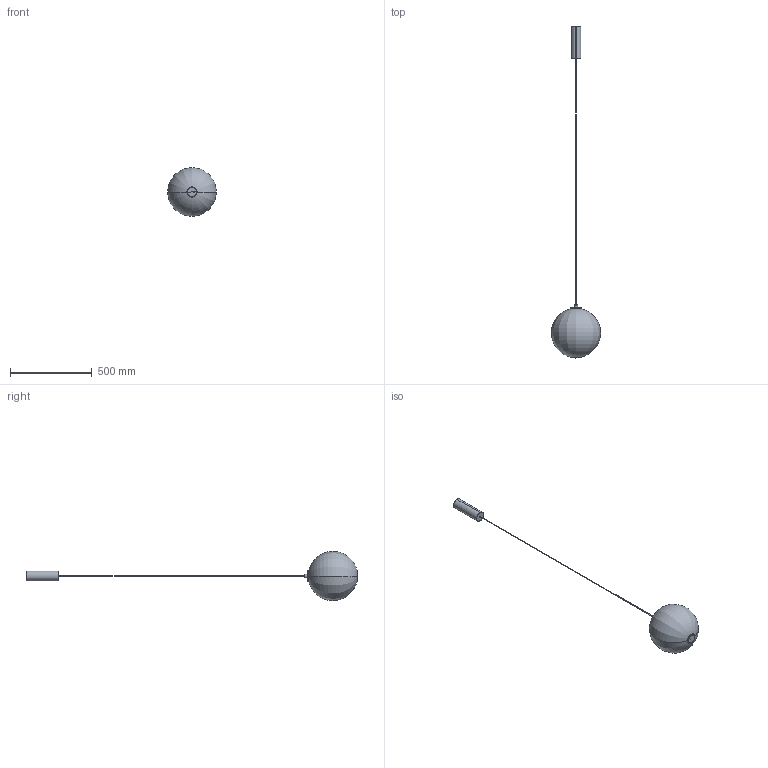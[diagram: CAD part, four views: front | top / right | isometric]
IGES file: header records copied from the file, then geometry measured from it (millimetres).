
Start section: SolidWorks IGES file using analytic representation for surfaces
Global section: file name: C:\Users\Agustin\Desktop\COMPARTIDA\Nueva Coleccion Septiembre 2026\TOULON_1365\TOULON_C1365-1\3D\TOULON_C1365-1.IGS; native system: SolidWorks 2023; preprocessor: SolidWorks 2023; author: Agustin; date: 260703.114944; units: millimetre
Bounding box: 299.87 x 2025 x 299.87 mm (x, y, z)
Surface area: 427348.9 mm2 (no closed solid volume)
Topology: 0 solids, 0 shells, 102 faces, 1196 edges, 1194 vertices
Faces by surface type: revolution 53, bspline 49
